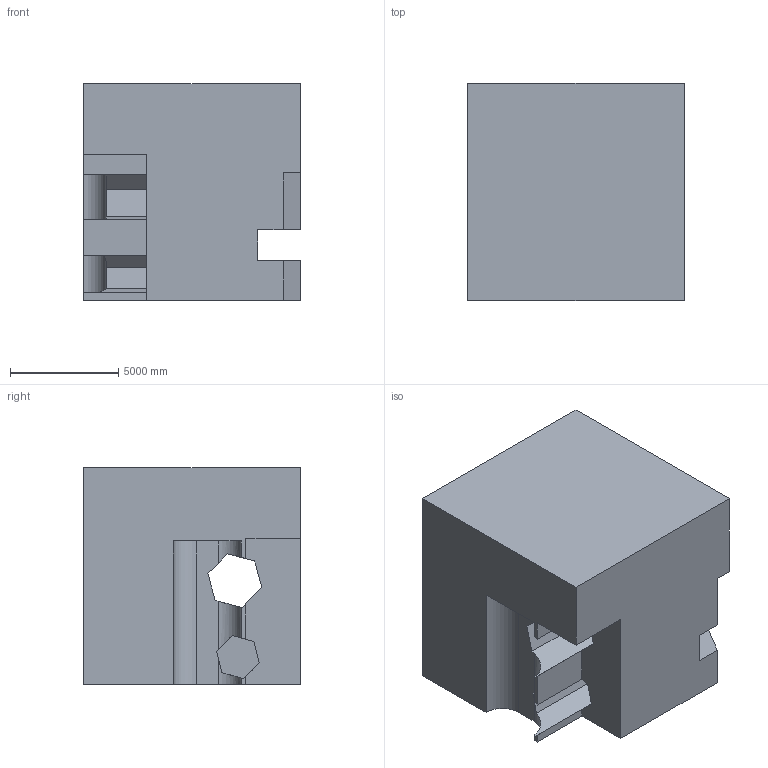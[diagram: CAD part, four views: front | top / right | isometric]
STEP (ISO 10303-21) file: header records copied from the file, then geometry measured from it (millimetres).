
FILE_DESCRIPTION (( 'STEP AP203' ), '1' );
FILE_NAME ('68.STEP', '2022-09-02T13:59:03', ( 'user' ), ( '' ), 'SwSTEP 2.0', 'SolidWorks 2021', '' );
FILE_SCHEMA (( 'CONFIG_CONTROL_DESIGN' ));
Length unit declared in the file: centimetre
Products named in the file (1): 68
Bounding box: 10000 x 10000 x 10000 mm (x, y, z)
Volume: 845876607867.7 mm3; surface area: 714148122.6 mm2
Topology: 1 solids, 1 shells, 47 faces, 138 edges, 92 vertices
Faces by surface type: plane 43, cylinder 4
Entity records: 1617 total; most frequent: CARTESIAN_POINT 299, ORIENTED_EDGE 276, DIRECTION 231, EDGE_CURVE 138, VECTOR 127, LINE 127, VERTEX_POINT 92, AXIS2_PLACEMENT_3D 52
